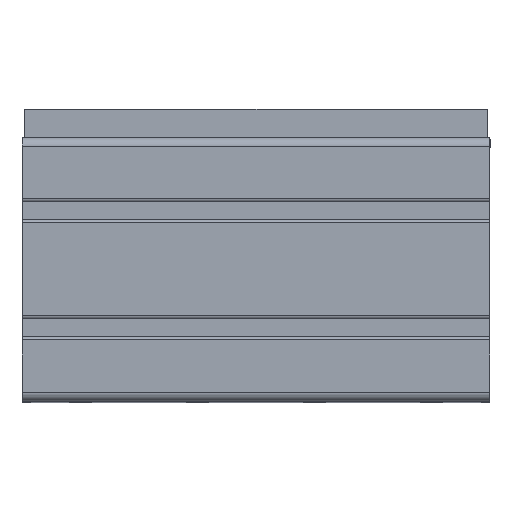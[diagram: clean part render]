
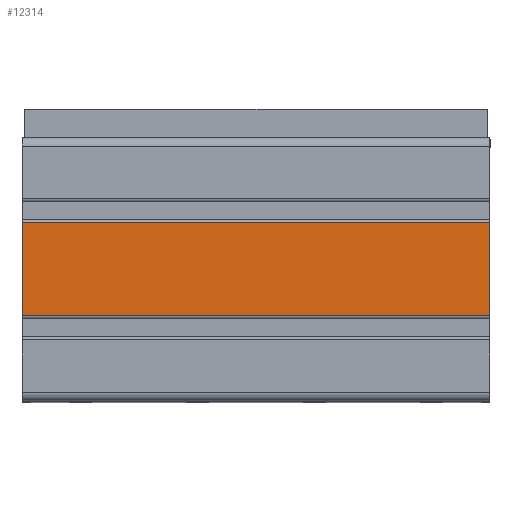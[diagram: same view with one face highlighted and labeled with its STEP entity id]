
A CAD part, top view. The second image highlights one B-rep face of the part: STEP entity #12314.
In plain terms, the highlighted planar face has unit normal (0, 0, 1) as drawn and (1, 0, 0) by its records, which use the part's own axes.
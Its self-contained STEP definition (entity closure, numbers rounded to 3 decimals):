
#10813=CARTESIAN_POINT('',(90.,60.9,0.0));
#10814=VERTEX_POINT('',#10813);
#10822=CARTESIAN_POINT('',(90.0,29.1,0.0));
#10823=VERTEX_POINT('',#10822);
#10824=CARTESIAN_POINT('',(90.0,29.1,0.0));
#10825=DIRECTION('',(0.0,1.0,0.0));
#10826=VECTOR('',#10825,31.8);
#10827=LINE('',#10824,#10826);
#10828=EDGE_CURVE('',#10823,#10814,#10827,.T.);
#11055=CARTESIAN_POINT('',(90.0,29.1,160.0));
#11056=VERTEX_POINT('',#11055);
#11064=CARTESIAN_POINT('',(90.,60.9,160.0));
#11065=VERTEX_POINT('',#11064);
#11066=CARTESIAN_POINT('',(90.,60.9,160.0));
#11067=DIRECTION('',(0.0,-1.0,0.0));
#11068=VECTOR('',#11067,31.8);
#11069=LINE('',#11066,#11068);
#11070=EDGE_CURVE('',#11065,#11056,#11069,.T.);
#11729=CARTESIAN_POINT('',(90.0,29.1,0.0));
#11730=DIRECTION('',(0.0,0.0,1.0));
#11731=VECTOR('',#11730,160.0);
#11732=LINE('',#11729,#11731);
#11733=EDGE_CURVE('',#10823,#11056,#11732,.T.);
#11768=CARTESIAN_POINT('',(90.,60.9,160.0));
#11769=DIRECTION('',(0.0,0.0,-1.0));
#11770=VECTOR('',#11769,160.0);
#11771=LINE('',#11768,#11770);
#11772=EDGE_CURVE('',#11065,#10814,#11771,.T.);
#12303=CARTESIAN_POINT('',(90.,90.0,0.0));
#12304=DIRECTION('',(1.0,0.0,0.0));
#12305=DIRECTION('',(0.0,0.0,-1.0));
#12306=AXIS2_PLACEMENT_3D('',#12303,#12304,#12305);
#12307=PLANE('',#12306);
#12308=ORIENTED_EDGE('',*,*,#11733,.F.);
#12309=ORIENTED_EDGE('',*,*,#10828,.T.);
#12310=ORIENTED_EDGE('',*,*,#11772,.F.);
#12311=ORIENTED_EDGE('',*,*,#11070,.T.);
#12312=EDGE_LOOP('',(#12308,#12309,#12310,#12311));
#12313=FACE_OUTER_BOUND('',#12312,.T.);
#12314=ADVANCED_FACE('',(#12313),#12307,.T.);
